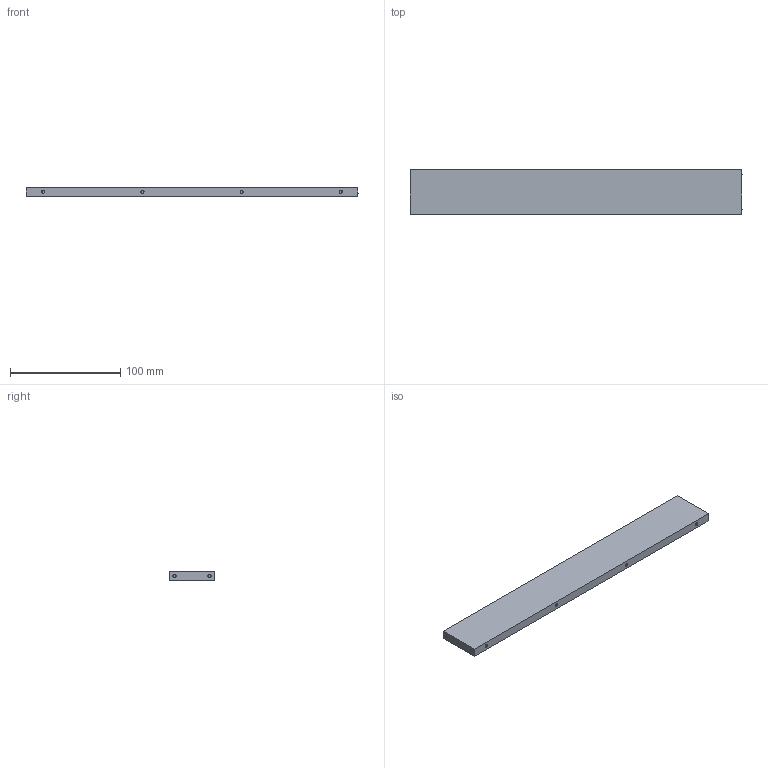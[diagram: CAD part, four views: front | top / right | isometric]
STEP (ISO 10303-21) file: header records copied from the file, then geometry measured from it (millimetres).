
FILE_DESCRIPTION (( 'STEP AP214' ), '1' );
FILE_NAME ('Topplate.STEP', '2022-05-03T08:48:40', ( '' ), ( '' ), 'SwSTEP 2.0', 'SolidWorks 2022', '' );
FILE_SCHEMA (( 'AUTOMOTIVE_DESIGN' ));
Length unit declared in the file: millimetre
Products named in the file (1): Topplate
Bounding box: 301 x 40 x 8 mm (x, y, z)
Volume: 95634.3 mm3; surface area: 31149.5 mm2
Topology: 1 solids, 1 shells, 522 faces, 1508 edges, 1000 vertices
Faces by surface type: cylinder 456, bspline 36, plane 30
Entity records: 43322 total; most frequent: CARTESIAN_POINT 32495, ORIENTED_EDGE 3016, DIRECTION 1562, EDGE_CURVE 1508, VERTEX_POINT 1000, EDGE_LOOP 534, AXIS2_PLACEMENT_3D 523, FACE_OUTER_BOUND 522
